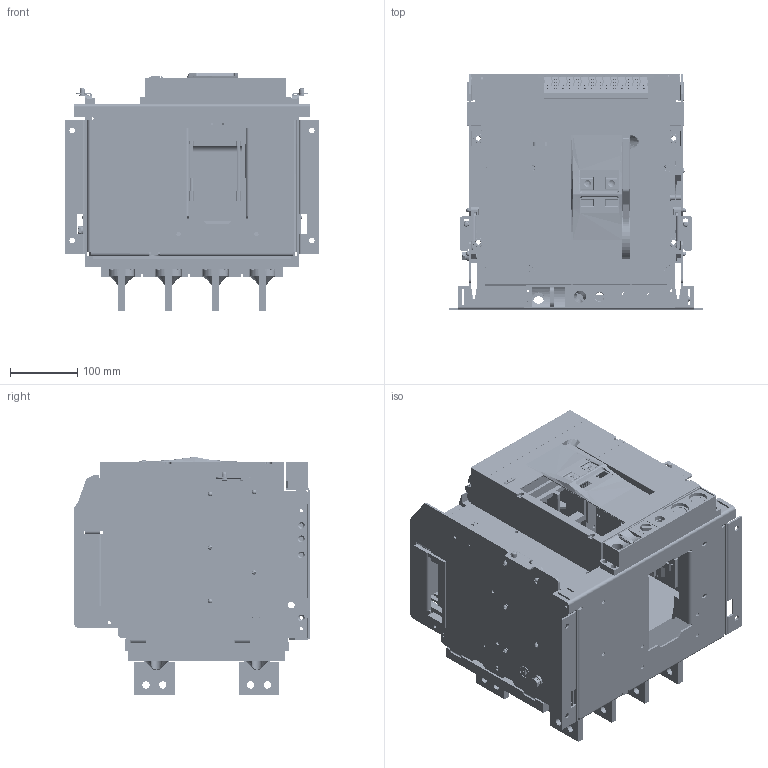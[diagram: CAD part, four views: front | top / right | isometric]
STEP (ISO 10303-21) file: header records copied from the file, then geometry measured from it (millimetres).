
FILE_DESCRIPTION((''),'2;1');
FILE_NAME('NA8G-1600-1000-DO-4P-V_ASM','2019-06-03T08:42:07',('lcc'),(''),'CREO PARAMETRIC BY PTC INC, 2018020','CREO PARAMETRIC BY PTC INC, 2018020','');
FILE_SCHEMA(('CONFIG_CONTROL_DESIGN','SHAPE_APPEARANCE_LAYERS_GROUPS'));
Products named in the file (51): 8-024-498; 8-300-164; 8-141-125; 8ZTD-860-349-2; 8-441-081; 5ZTD-024-170_ASM; 8-050-244; 8-960-058; 8-960-056; 8-960-057; 8-960-060; 8-960-059; 8-127-020; 8-125-057; 8-123-120; 8-261-001; 8-125-001; 8-210-176; 5-124-010_ASM; 8-233-301; GBT97_1-4; GBT93-4; GBT818-M4X10; GBT845-ST4_2X9_5C; GBT6170-M8; 5-050-095_ASM; 8-050-243; 8-261-002; 8-125-002; 5-124-011_ASM; GBT97_1-8; GBT93-8; GBT5783-M8X16; 5-050-096_ASM; 8-300-163; 8-015-020; 8ZTD-043-780; 8ZTD-043-781; 8-300-162-2; 8-005-238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
Assembly tree (104 placements, depth 4):
  NA8G-1600-1000-DO-4P-V_ASM
    5ZTD-024-170_ASM
      8-024-498
      8-300-164
      8-141-125
      8ZTD-860-349-2
      8-441-081
    5-050-095_ASM
      8-050-244
      8-960-058
      8-960-056
      8-960-057
      8-960-060
      8-960-059
      8-127-020
      8-125-057
      8-123-120
      5-124-010_ASM
        8-261-001
        8-125-001
        8-210-176
      8-233-301
      GBT97_1-4  x5
      GBT93-4  x5
      GBT818-M4X10  x5
      GBT845-ST4_2X9_5C
      GBT6170-M8  x2
    5-050-096_ASM
      8-050-243
      8-125-057
      8-123-120
      5-124-011_ASM
        8-261-002
        8-125-002
        8-210-176
      GBT6170-M8  x2
      GBT97_1-4  x5
      GBT93-4  x5
      GBT818-M4X10  x5
      GBT97_1-8  x2
      GBT93-8
      GBT5783-M8X16
    8-300-163
    8-015-020
    8ZTD-043-780
    8ZTD-043-781
    8-300-162-2
    8-005-238
    8-253-348
    8-253-349
    8-253-309
    5-235-147
    1600-DUANZI-CTS_ASM
      8ZTD-064-138
      8ZTD-024-689  x14
      8ZTD-860-511
    1600-DIJIA-4P
    8ZTD-580-187-2  x8
Bounding box: 378 x 351 x 355 mm (x, y, z)
Volume: 8332534.2 mm3; surface area: 2113703 mm2
Topology: 98 solids, 158 shells, 7736 faces, 21106 edges, 13861 vertices
Faces by surface type: plane 5749, cylinder 1728, cone 134, bspline 50, torus 42, sphere 32, extrusion 1
Entity records: 202570 total; most frequent: CARTESIAN_POINT 29945, ORIENTED_EDGE 27274, DIRECTION 26556, EDGE_CURVE 13648, PRESENTATION_STYLE_ASSIGNMENT 12801, STYLED_ITEM 12764, CURVE_STYLE 12101, VECTOR 10752
